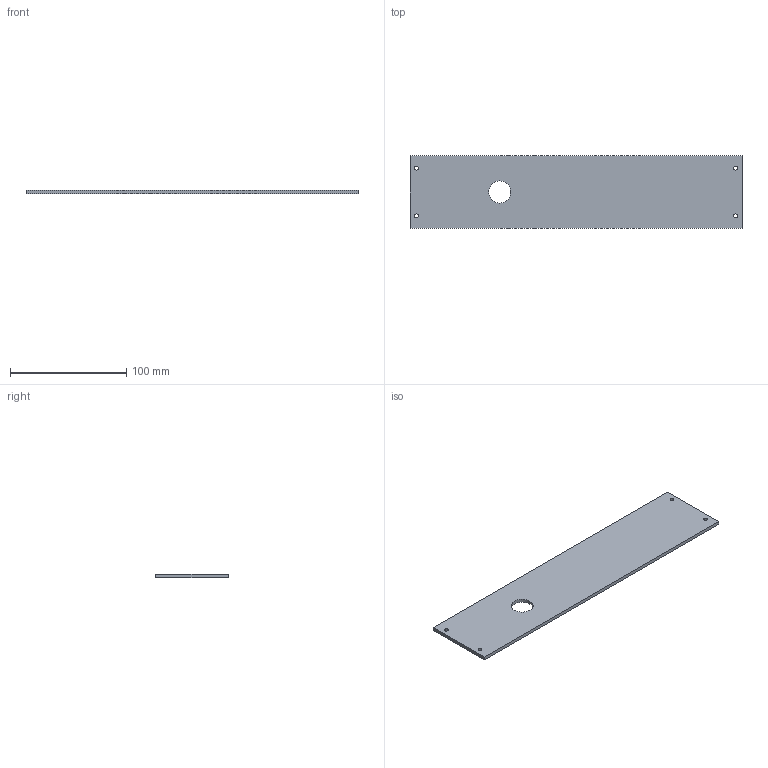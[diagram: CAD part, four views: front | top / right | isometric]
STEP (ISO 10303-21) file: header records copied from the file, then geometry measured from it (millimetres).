
FILE_DESCRIPTION(('FreeCAD Model'),'2;1');
FILE_NAME('Open CASCADE Shape Model','2025-01-25T13:21:34',(''),(''), 'Open CASCADE STEP processor 7.6','FreeCAD','Unknown');
FILE_SCHEMA(('AUTOMOTIVE_DESIGN { 1 0 10303 214 1 1 1 1 }'));
Length unit declared in the file: millimetre
Products named in the file (1): Front
Bounding box: 285 x 62 x 3 mm (x, y, z)
Volume: 52056.8 mm3; surface area: 37090 mm2
Topology: 1 solids, 1 shells, 11 faces, 27 edges, 18 vertices
Faces by surface type: plane 6, cylinder 5
Full cylindrical faces by diameter (mm): 3.3 x4, 19 x1
Entity records: 373 total; most frequent: DIRECTION 61, CARTESIAN_POINT 57, ORIENTED_EDGE 54, EDGE_CURVE 27, AXIS2_PLACEMENT_3D 22, FACE_BOUND 21, EDGE_LOOP 21, VERTEX_POINT 18
